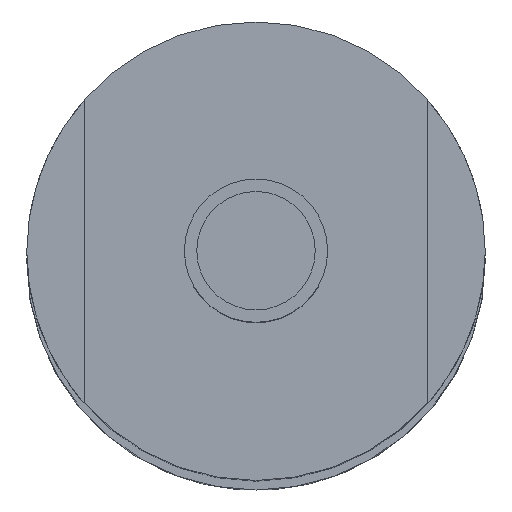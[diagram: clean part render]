
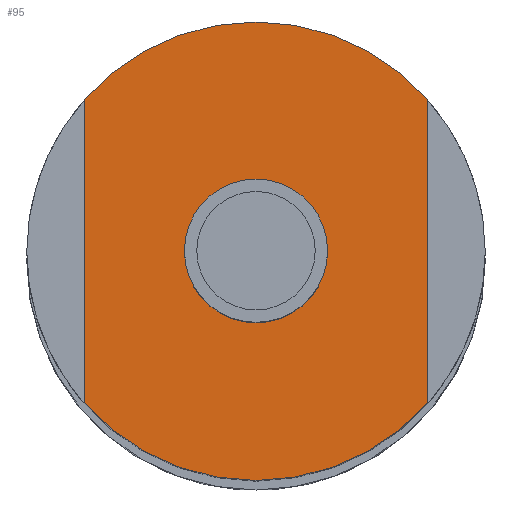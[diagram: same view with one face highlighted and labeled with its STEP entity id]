
A CAD part, top view. The second image highlights one B-rep face of the part: STEP entity #95.
In plain terms, the highlighted planar face has unit normal (0, 0, 1).
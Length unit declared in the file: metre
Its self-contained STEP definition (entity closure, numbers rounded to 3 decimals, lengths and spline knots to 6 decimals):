
#95=ADVANCED_FACE('17:304',(#193,#194),#195,.T.);
#193=FACE_BOUND('',#311,.T.);
#194=FACE_OUTER_BOUND('',#312,.T.);
#195=PLANE('',#313);
#311=EDGE_LOOP('',(#474,#475));
#312=EDGE_LOOP('',(#476,#477,#478,#479,#480,#481));
#313=AXIS2_PLACEMENT_3D('',#482,#483,#484);
#474=ORIENTED_EDGE('',*,*,#672,.T.);
#475=ORIENTED_EDGE('',*,*,#681,.T.);
#476=ORIENTED_EDGE('',*,*,#684,.F.);
#477=ORIENTED_EDGE('',*,*,#667,.F.);
#478=ORIENTED_EDGE('',*,*,#666,.F.);
#479=ORIENTED_EDGE('',*,*,#676,.T.);
#480=ORIENTED_EDGE('',*,*,#689,.F.);
#481=ORIENTED_EDGE('',*,*,#688,.F.);
#482=CARTESIAN_POINT('',(0.,0.,0.119));
#483=DIRECTION('',(0.0,0.0,1.0));
#484=DIRECTION('',(1.0,0.0,0.0));
#666=EDGE_CURVE('17:354',#800,#802,#803,.F.);
#667=EDGE_CURVE('17:345',#802,#804,#805,.F.);
#672=EDGE_CURVE('19:2123',#813,#810,#814,.F.);
#676=EDGE_CURVE('17:844',#800,#819,#820,.T.);
#681=EDGE_CURVE('',#810,#813,#826,.F.);
#684=EDGE_CURVE('17:790',#804,#830,#831,.F.);
#688=EDGE_CURVE('17:351',#830,#835,#836,.F.);
#689=EDGE_CURVE('17:342',#835,#819,#837,.F.);
#800=VERTEX_POINT('',#987);
#802=VERTEX_POINT('',#990);
#803=CIRCLE('',#991,0.008);
#804=VERTEX_POINT('',#992);
#805=CIRCLE('',#993,0.008);
#810=VERTEX_POINT('',#999);
#813=VERTEX_POINT('',#1003);
#814=CIRCLE('',#1004,0.0025);
#819=VERTEX_POINT('',#1010);
#820=LINE('',#1011,#1012);
#826=CIRCLE('',#1020,0.0025);
#830=VERTEX_POINT('',#1025);
#831=LINE('',#1026,#1027);
#835=VERTEX_POINT('',#1032);
#836=CIRCLE('',#1033,0.008);
#837=CIRCLE('',#1034,0.008);
#987=CARTESIAN_POINT('',(-0.00611,0.005425,0.119));
#990=CARTESIAN_POINT('',(-0.00011,0.008133,0.119));
#991=AXIS2_PLACEMENT_3D('',#1184,#1185,#1186);
#992=CARTESIAN_POINT('',(0.00589,0.005425,0.119));
#993=AXIS2_PLACEMENT_3D('',#1187,#1188,#1189);
#999=CARTESIAN_POINT('',(0.00239,0.000133,0.119));
#1003=CARTESIAN_POINT('',(-0.00261,0.000133,0.119));
#1004=AXIS2_PLACEMENT_3D('',#1195,#1196,#1197);
#1010=CARTESIAN_POINT('',(-0.00611,-0.005158,0.119));
#1011=CARTESIAN_POINT('',(-0.00611,0.000067,0.119));
#1012=VECTOR('',#1202,1.0);
#1020=AXIS2_PLACEMENT_3D('',#1208,#1209,#1210);
#1025=CARTESIAN_POINT('',(0.00589,-0.005158,0.119));
#1026=CARTESIAN_POINT('',(0.00589,0.000067,0.119));
#1027=VECTOR('',#1212,1.0);
#1032=CARTESIAN_POINT('',(-0.00011,-0.007867,0.119));
#1033=AXIS2_PLACEMENT_3D('',#1217,#1218,#1219);
#1034=AXIS2_PLACEMENT_3D('',#1220,#1221,#1222);
#1184=CARTESIAN_POINT('',(-0.00011,0.000133,0.119));
#1185=DIRECTION('',(0.0,0.0,1.0));
#1186=DIRECTION('',(1.0,0.0,0.0));
#1187=CARTESIAN_POINT('',(-0.00011,0.000133,0.119));
#1188=DIRECTION('',(0.0,0.0,1.0));
#1189=DIRECTION('',(1.0,0.0,0.0));
#1195=CARTESIAN_POINT('',(-0.00011,0.000133,0.119));
#1196=DIRECTION('',(0.0,0.0,1.0));
#1197=DIRECTION('',(1.0,0.0,-0.0));
#1202=DIRECTION('',(0.,-1.0,0.0));
#1208=CARTESIAN_POINT('',(-0.00011,0.000133,0.119));
#1209=DIRECTION('',(0.0,0.0,1.0));
#1210=DIRECTION('',(1.0,0.0,-0.0));
#1212=DIRECTION('',(0.,1.0,0.0));
#1217=CARTESIAN_POINT('',(-0.00011,0.000133,0.119));
#1218=DIRECTION('',(0.0,0.0,1.0));
#1219=DIRECTION('',(1.0,0.0,0.0));
#1220=CARTESIAN_POINT('',(-0.00011,0.000133,0.119));
#1221=DIRECTION('',(0.0,0.0,1.0));
#1222=DIRECTION('',(1.0,0.0,0.0));
